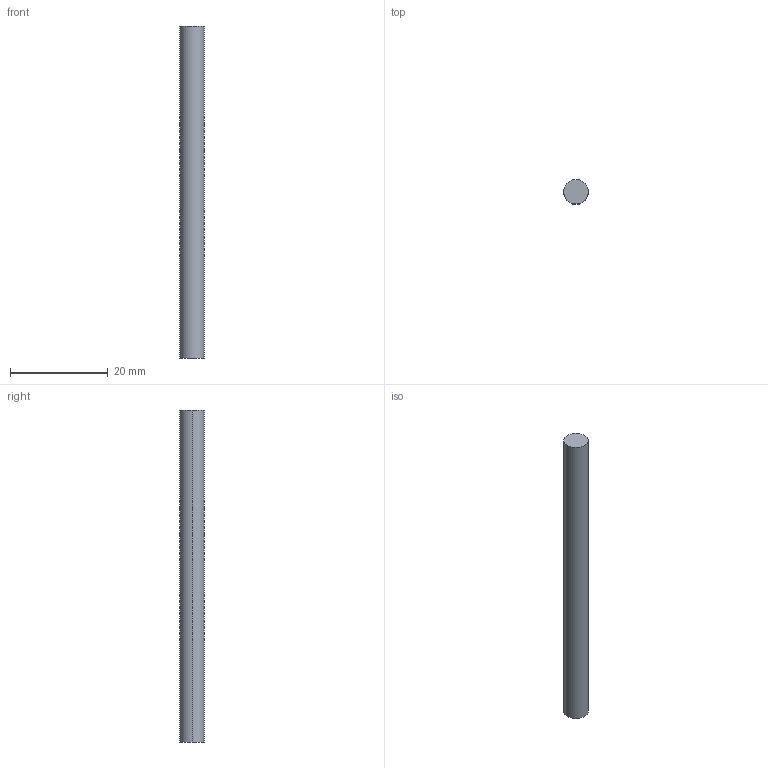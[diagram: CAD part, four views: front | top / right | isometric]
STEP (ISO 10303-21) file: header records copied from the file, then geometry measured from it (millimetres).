
FILE_DESCRIPTION (( 'STEP AP203' ), '1' );
FILE_NAME ('V2_REF_5mm_shaft.STEP', '2026-09-18T10:17:55', ( '15300530775@163.com' ), ( '' ), 'SwSTEP 2.0', 'SolidWorks 2026', '' );
FILE_SCHEMA (( 'CONFIG_CONTROL_DESIGN' ));
Length unit declared in the file: millimetre
Products named in the file (1): V2_REF_5mm_shaft
Bounding box: 5 x 5 x 68 mm (x, y, z)
Volume: 1335.2 mm3; surface area: 1107.4 mm2
Topology: 1 solids, 1 shells, 4 faces, 6 edges, 4 vertices
Faces by surface type: cylinder 2, plane 2
Entity records: 171 total; most frequent: DIRECTION 20, CARTESIAN_POINT 15, ORIENTED_EDGE 12, AXIS2_PLACEMENT_3D 9, PERSON_AND_ORGANIZATION 8, EDGE_CURVE 6, CALENDAR_DATE 5, LOCAL_TIME 5
